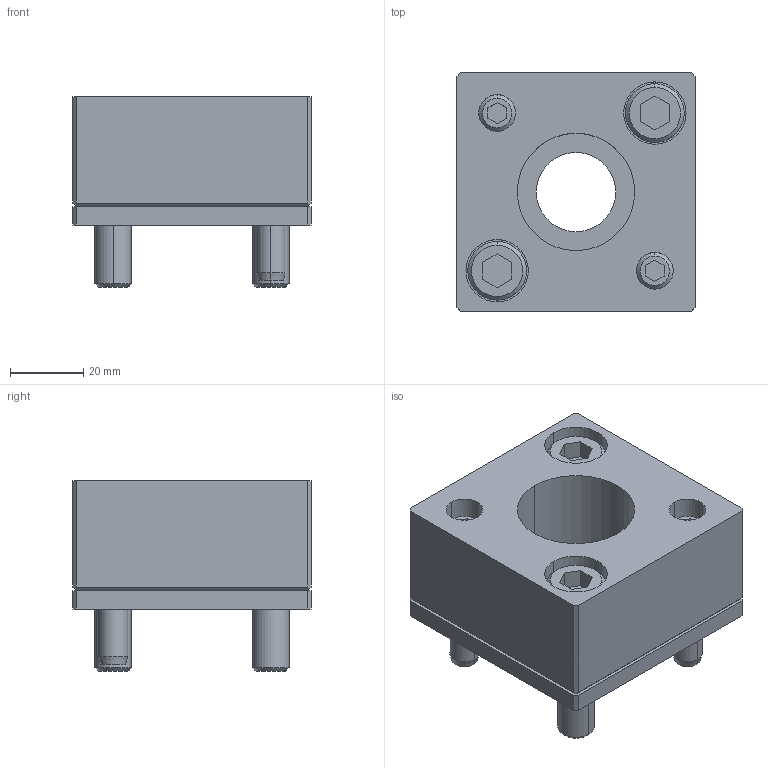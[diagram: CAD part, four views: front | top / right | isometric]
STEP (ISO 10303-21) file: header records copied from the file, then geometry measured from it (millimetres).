
FILE_DESCRIPTION(/* description */ (''),/* implementation_level */ '2;1');
FILE_NAME(/* name */ '3d_sr-ad32_02896_r00.stp',/* time_stamp */ '2011-01-10T14:10:01+09:00',/* author */ ('MISUMI'),/* organization */ (''),/* preprocessor_version */ 'ST-DEVELOPER v11',/* originating_system */ 'UGS - NX 5.0',/* authorisation */ '');
FILE_SCHEMA (('CONFIG_CONTROL_DESIGN'));
Length unit declared in the file: millimetre
Products named in the file (1): 3d_sr-ad32_02896_r00
Bounding box: 65 x 65 x 52 mm (x, y, z)
Volume: 123070.1 mm3; surface area: 37004.6 mm2
Topology: 8 solids, 8 shells, 155 faces, 346 edges, 222 vertices
Faces by surface type: plane 77, cylinder 52, cone 26
Entity records: 4440 total; most frequent: DIRECTION 784, CARTESIAN_POINT 766, ORIENTED_EDGE 692, EDGE_CURVE 346, AXIS2_PLACEMENT_3D 286, VERTEX_POINT 222, LINE 212, VECTOR 212
